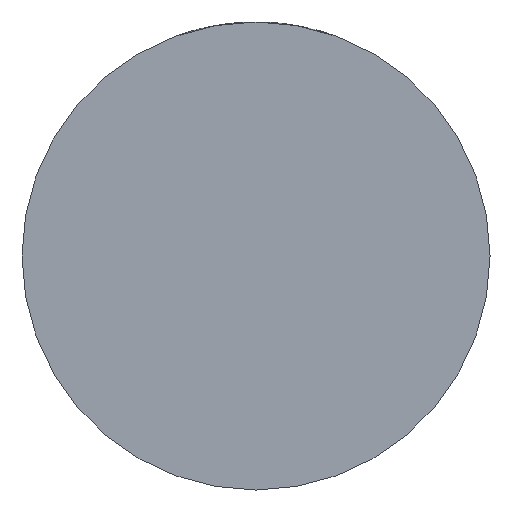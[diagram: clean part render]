
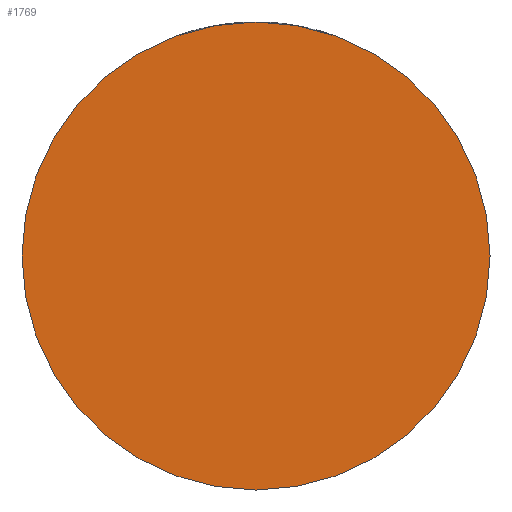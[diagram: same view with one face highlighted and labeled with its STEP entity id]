
A CAD part, front view. The second image highlights one B-rep face of the part: STEP entity #1769.
In plain terms, the highlighted planar face has unit normal (0, -1, 0).
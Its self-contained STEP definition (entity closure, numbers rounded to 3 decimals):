
#147 = PLANE ( 'NONE',  #3764 ) ;
#155 = CARTESIAN_POINT ( 'NONE',  ( -44., -29., 0. ) ) ;
#189 = EDGE_CURVE ( 'NONE', #546, #677, #898, .T. ) ;
#233 = FACE_OUTER_BOUND ( 'NONE', #1693, .T. ) ;
#247 = DIRECTION ( 'NONE',  ( 0., -1., 0. ) ) ;
#487 = DIRECTION ( 'NONE',  ( 1., 0., 0. ) ) ;
#546 = VERTEX_POINT ( 'NONE', #155 ) ;
#677 = VERTEX_POINT ( 'NONE', #1324 ) ;
#726 = CIRCLE ( 'NONE', #801, 44. ) ;
#801 = AXIS2_PLACEMENT_3D ( 'NONE', #3290, #2633, #3637 ) ;
#898 = CIRCLE ( 'NONE', #1480, 44. ) ;
#1324 = CARTESIAN_POINT ( 'NONE',  ( 44., -29., 0. ) ) ;
#1423 = ORIENTED_EDGE ( 'NONE', *, *, #1783, .T. ) ;
#1480 = AXIS2_PLACEMENT_3D ( 'NONE', #2002, #247, #1982 ) ;
#1693 = EDGE_LOOP ( 'NONE', ( #3740, #1423 ) ) ;
#1769 = ADVANCED_FACE ( 'NONE', ( #233 ), #147, .T. ) ;
#1783 = EDGE_CURVE ( 'NONE', #677, #546, #726, .T. ) ;
#1882 = CARTESIAN_POINT ( 'NONE',  ( 0., -29., 0. ) ) ;
#1982 = DIRECTION ( 'NONE',  ( 1., 0., 0. ) ) ;
#2002 = CARTESIAN_POINT ( 'NONE',  ( 0., -29., 0. ) ) ;
#2633 = DIRECTION ( 'NONE',  ( 0., -1., 0. ) ) ;
#3290 = CARTESIAN_POINT ( 'NONE',  ( 0., -29., 0. ) ) ;
#3331 = DIRECTION ( 'NONE',  ( 0., -1., 0. ) ) ;
#3637 = DIRECTION ( 'NONE',  ( 1., 0., 0. ) ) ;
#3740 = ORIENTED_EDGE ( 'NONE', *, *, #189, .T. ) ;
#3764 = AXIS2_PLACEMENT_3D ( 'NONE', #1882, #3331, #487 ) ;
